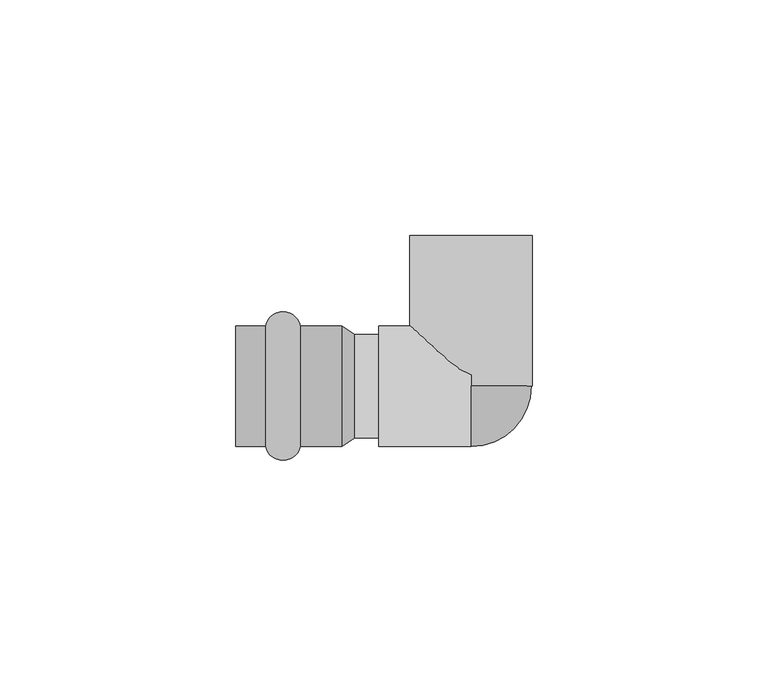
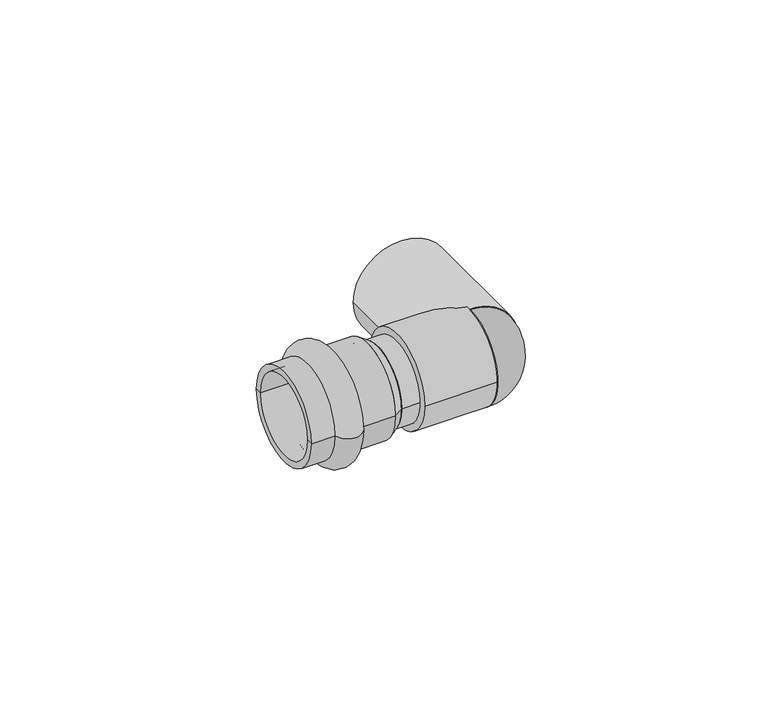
"""IFC4 building model written with IfcOpenShell, lengths in millimetres: pipe fitting geometry, VALTEC_VTi.952.I_Угольник с переходом на внутреннюю резьбу нержавеющая сталь : VTi.952.I."""

from ifc_helpers import new_model, si_unit, point, frame, origin, origin_2d, place, context, project, spatial, polyline, circle_curve, ellipse_curve, trimmed, segment, composite_curve, outline, extrude, source, transform, mapped, element, save
from ifc_brep_helpers import plane_surface, cylinder_surface, revolved_surface, advanced_brep


def pipe_fitting_5a1187a2(model_context):
    return source(origin(), model_context, "Body", "SolidModel", [
        advanced_brep(
        [(-43.6242346, -12.8, 0.0), (-43.6242346, 12.8, 0.0), (-36.2757654, 12.8, 0.0), (-36.2757654, -12.8, 0.0), (-50.0, -12.8, 0.0), (-50.0, 12.8, 0.0), (-50.0, -11.0, 0.0), (-50.0, 11.0, 0.0), (-27.5, -11.0, 0.0), (-27.5, 11.0, 0.0), (-27.5, -12.8, 0.0), (-27.5, 12.8, 0.0)],
        [
            (0, 1, circle_curve(frame((-43.6242346, 0.0, 0.0), z_axis=(1.0, 0.0, 0.0), x_axis=(0.0, 1.0, 0.0)), 12.8)),
            (1, 2, circle_curve(frame((-39.95, 12.05, 0.0), z_axis=(0.0, 0.0, -1.0), x_axis=(1.0, 0.0, 0.0)), 3.75)),
            (2, 3, circle_curve(frame((-36.2757654, 0.0, 0.0), z_axis=(-1.0, 0.0, 0.0), x_axis=(0.0, 1.0, 0.0)), 12.8)),
            (3, 0, circle_curve(frame((-39.95, -12.05, 0.0), z_axis=(0.0, 0.0, -1.0), x_axis=(1.0, 0.0, 0.0)), 3.75)),
            (1, 0, circle_curve(frame((-43.6242346, 0.0, 0.0), z_axis=(1.0, 0.0, 0.0), x_axis=(0.0, 1.0, 0.0)), 12.8)),
            (3, 2, circle_curve(frame((-36.2757654, 0.0, 0.0), z_axis=(-1.0, 0.0, 0.0), x_axis=(0.0, 1.0, 0.0)), 12.8)),
            (4, 5, circle_curve(frame((-50.0, 0.0, 0.0), z_axis=(1.0, 0.0, 0.0), x_axis=(0.0, 1.0, 0.0)), 12.8)),
            (5, 1),
            (0, 4),
            (5, 4, circle_curve(frame((-50.0, 0.0, 0.0), z_axis=(1.0, 0.0, 0.0), x_axis=(0.0, 1.0, 0.0)), 12.8)),
            (6, 7, circle_curve(frame((-50.0, 0.0, 0.0), z_axis=(1.0, 0.0, 0.0), x_axis=(0.0, 1.0, 0.0)), 11.0)),
            (7, 5),
            (4, 6),
            (7, 6, circle_curve(frame((-50.0, 0.0, 0.0), z_axis=(1.0, 0.0, 0.0), x_axis=(0.0, 1.0, 0.0)), 11.0)),
            (8, 9, circle_curve(frame((-27.5, 0.0, 0.0), z_axis=(1.0, 0.0, 0.0), x_axis=(0.0, 1.0, 0.0)), 11.0)),
            (9, 7),
            (6, 8),
            (9, 8, circle_curve(frame((-27.5, 0.0, 0.0), z_axis=(1.0, 0.0, 0.0), x_axis=(0.0, 1.0, 0.0)), 11.0)),
            (10, 11, circle_curve(frame((-27.5, 0.0, 0.0), z_axis=(1.0, 0.0, 0.0), x_axis=(0.0, 1.0, 0.0)), 12.8)),
            (11, 9),
            (8, 10),
            (11, 10, circle_curve(frame((-27.5, 0.0, 0.0), z_axis=(1.0, 0.0, 0.0), x_axis=(0.0, 1.0, 0.0)), 12.8)),
            (2, 11),
            (10, 3),
        ],
        [
            revolved_surface(trimmed(ellipse_curve(frame((-39.95, 12.05, 0.0), z_axis=(0.0, 0.0, 1.0), x_axis=(1.0, 0.0, 0.0)), 3.75, 3.75), [point((-36.2757654, 12.8, 0.0))], [point((-43.6242346, 12.8, 0.0))], True, "CARTESIAN"), (-53.5364426, 0.0, 0.0), (-1.0, 0.0, 0.0)),
            cylinder_surface(frame((-53.5364426, 0.0, 0.0), z_axis=(-1.0, 0.0, 0.0), x_axis=(0.0, 1.0, 0.0)), 12.8),
            plane_surface(frame((-50.0, 0.0, 0.0), z_axis=(-1.0, 0.0, 0.0), x_axis=(0.0, 1.0, 0.0))),
            revolved_surface(polyline([(-50.0, 11.0, 0.0), (-27.5, 11.0, 0.0)]), (-53.5364426, 0.0, 0.0), (-1.0, 0.0, 0.0)),
            plane_surface(frame((-27.5, 0.0, 0.0), z_axis=(1.0, 0.0, 0.0), x_axis=(0.0, 1.0, 0.0))),
        ],
        [
            (0, [[1, 2, 3, 4]]),
            (0, [[5, -4, 6, -2]]),
            (1, [[7, 8, -1, 9]]),
            (1, [[10, -9, -5, -8]]),
            (2, [[11, 12, -7, 13]]),
            (2, [[14, -13, -10, -12]]),
            (3, [[15, 16, -11, 17]]),
            (3, [[18, -17, -14, -16]]),
            (4, [[19, 20, -15, 21]]),
            (4, [[22, -21, -18, -20]]),
            (1, [[-3, 23, -19, 24]]),
            (1, [[-6, -24, -22, -23]]),
        ],
    ),
        advanced_brep(
        [(0.0, 0.0, -12.8), (0.0, 0.0, 12.8)],
        [
            (0, 1, circle_curve(frame((0.0, 0.0, 0.0), z_axis=(-1.0, 0.0, 0.0), x_axis=(0.0, -1.0, 0.0)), 12.8)),
            (1, 0),
            (1, 0, circle_curve(frame((0.0, 0.0, 0.0), z_axis=(0.0, 1.0, 0.0), x_axis=(1.0, 0.0, 0.0)), 12.8)),
        ],
        [
            plane_surface(frame((0.0, 0.0, 1.732782), z_axis=(-1.0, 0.0, 0.0), x_axis=(0.0, -1.0, 0.0))),
            plane_surface(frame((0.0, 0.0, 1.732782), z_axis=(0.0, 1.0, 0.0), x_axis=(1.0, 0.0, 0.0))),
            revolved_surface(trimmed(ellipse_curve(frame((0.0, 0.0, 0.0), z_axis=(-1.0, 0.0, 0.0), x_axis=(0.0, -1.0, 0.0)), 12.8, 12.8), [point((0.0, 0.0, -12.8))], [point((0.0, 0.0, 12.8))], True, "CARTESIAN"), (0.0, 0.0, 1.732782), (0.0, 0.0, 1.0)),
        ],
        [
            (0, [[1, 2]]),
            (1, [[3, -2]]),
            (2, [[-1, -3]]),
        ],
    ),
        extrude(outline(composite_curve([segment(trimmed(circle_curve(origin_2d(), 12.8), [point((-12.8, 0.0))], [point((12.8, 0.0))], False, "CARTESIAN"), True, "CONTINUOUS"), segment(trimmed(circle_curve(origin_2d(), 12.8), [point((12.8, 0.0))], [point((-12.8, 0.0))], False, "CARTESIAN"), True, "CONTINUOUS")], self_intersect=False)), frame((-19.6390217, 0.0, 0.0), z_axis=(1.0, 0.0, 0.0), x_axis=(0.0, 1.0, 0.0)), (0.0, 0.0, 1.0), 19.6390217),
        extrude(outline(composite_curve([segment(trimmed(circle_curve(origin_2d(), 13.0), [point((0.0, -13.0))], [point((0.0, 13.0))], False, "CARTESIAN"), True, "CONTINUOUS"), segment(trimmed(circle_curve(origin_2d(), 13.0), [point((0.0, 13.0))], [point((0.0, -13.0))], False, "CARTESIAN"), True, "CONTINUOUS")], self_intersect=False), holes=[composite_curve([segment(trimmed(circle_curve(origin_2d(), 10.0), [point((0.0, -10.0))], [point((0.0, 10.0))], True, "CARTESIAN"), True, "CONTINUOUS"), segment(trimmed(circle_curve(origin_2d(), 10.0), [point((0.0, 10.0))], [point((0.0, -10.0))], True, "CARTESIAN"), True, "CONTINUOUS")], self_intersect=False)]), frame((0.0, 0.0, 0.0), z_axis=(0.0, 1.0, 0.0), x_axis=(0.0, 0.0, 1.0)), (0.0, 0.0, 1.0), 32.0),
        extrude(outline(composite_curve([segment(trimmed(circle_curve(origin_2d(), 11.0), [point((-11.0, 0.0))], [point((11.0, 0.0))], False, "CARTESIAN"), True, "CONTINUOUS"), segment(trimmed(circle_curve(origin_2d(), 11.0), [point((11.0, 0.0))], [point((-11.0, 0.0))], False, "CARTESIAN"), True, "CONTINUOUS")], self_intersect=False)), frame((-24.75, 0.0, 0.0), z_axis=(1.0, 0.0, 0.0), x_axis=(0.0, 1.0, 0.0)), (0.0, 0.0, 1.0), 5.1109783),
        advanced_brep(
        [(-27.5, -12.8, 0.0), (-27.5, 12.8, 0.0), (-24.75, -11.0, 0.0), (-24.75, 11.0, 0.0)],
        [
            (0, 1, circle_curve(frame((-27.5, 0.0, 0.0), z_axis=(-1.0, 0.0, 0.0), x_axis=(0.0, -1.0, 0.0)), 12.8)),
            (1, 0, circle_curve(frame((-27.5, 0.0, 0.0), z_axis=(-1.0, 0.0, 0.0), x_axis=(0.0, 1.0, 0.0)), 12.8)),
            (2, 3, circle_curve(frame((-24.75, 0.0, 0.0), z_axis=(1.0, 0.0, 0.0), x_axis=(0.0, 1.0, 0.0)), 11.0)),
            (3, 2, circle_curve(frame((-24.75, 0.0, 0.0), z_axis=(1.0, 0.0, 0.0), x_axis=(0.0, -1.0, 0.0)), 11.0)),
            (2, 0),
            (1, 3),
        ],
        [
            plane_surface(frame((-27.5, 0.0, 0.0), z_axis=(-1.0, 0.0, 0.0), x_axis=(0.0, 0.0, -1.0))),
            plane_surface(frame((-24.75, 0.0, 0.0), z_axis=(1.0, 0.0, 0.0), x_axis=(0.0, 0.0, -1.0))),
            revolved_surface(polyline([(-24.75, -11.000000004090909, 0.0), (-27.5, -12.8, 0.0)]), (-7.9444444, 0.0, 0.0), (-1.0, 0.0, 0.0)),
            revolved_surface(polyline([(-24.75, 11.000000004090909, 0.0), (-27.5, 12.8, 0.0)]), (-7.9444444, 0.0, 0.0), (-1.0, 0.0, 0.0)),
        ],
        [
            (0, [[1, 2]]),
            (1, [[3, 4]]),
            (2, [[-3, 5, -2, 6]]),
            (3, [[-4, -6, -1, -5]]),
        ],
    ),
    ])


if __name__ == "__main__":
    model = new_model("IFC4")
    model_context = context("Model", 3, world=origin())
    ifc_project = project(units=[si_unit("LENGTHUNIT", "METRE", prefix="MILLI")], contexts=[model_context])
    site = spatial("IfcSite", under=ifc_project)
    building = spatial("IfcBuilding", under=site)
    placement = place(None, origin())
    pipe_fitting_shape = pipe_fitting_5a1187a2(model_context)
    element("IfcPipeFitting", 1, ObjectType="VALTEC_VTi.952.I_Угольник с переходом на внутреннюю резьбу нержавеющая сталь : VTi.952.I", at=placement, inside=building, context=model_context, shape_type="MappedRepresentation", body=[
        mapped(pipe_fitting_shape, transform((0.0, 0.0, 0.0), x_axis=(1.0, 0.0, 0.0), y_axis=(0.0, 1.0, 0.0), z_axis=(0.0, 0.0, 1.0))),
    ])
    save(model, "model.ifc")
